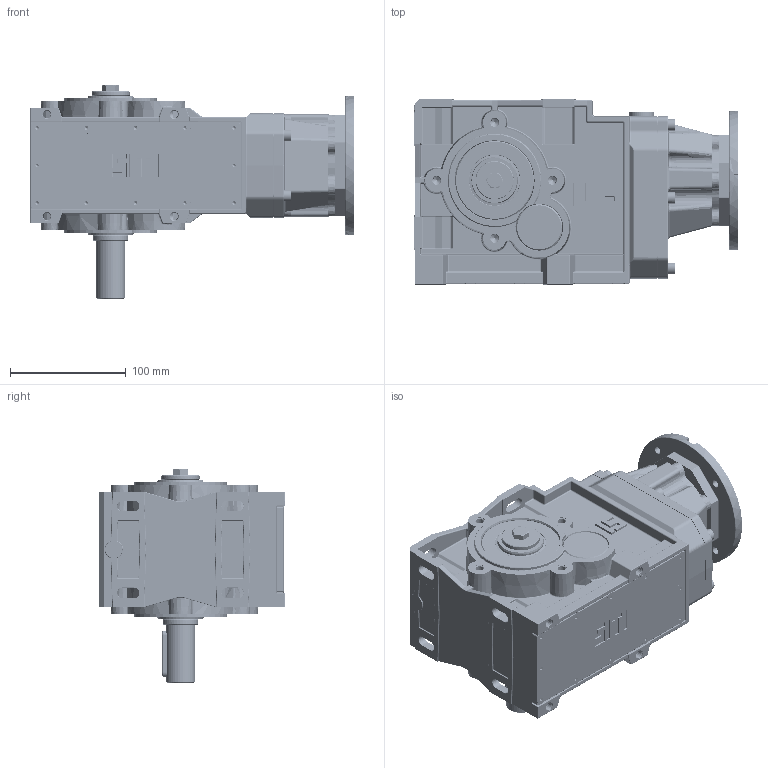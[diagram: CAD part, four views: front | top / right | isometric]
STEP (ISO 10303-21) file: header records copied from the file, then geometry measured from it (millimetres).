
FILE_DESCRIPTION((''),'2;1');
FILE_NAME('C:\Users\m.piscopiello.SITIRIDUTTORI\Desktop\3D x SITO\MBH 56 PAM 56\MBH_56 MS-B PAM56 B5.stp','2013-04-23T14:16:20',('m.piscopiello'),(''),'Autodesk Inventor 2012','Autodesk Inventor 2012','');
FILE_SCHEMA(('CONFIG_CONTROL_DESIGN'));
Length unit declared in the file: millimetre
Products named in the file (1): MBH_56 MS-B PAM56 B5
Bounding box: 280.5 x 160 x 184.3 mm (x, y, z)
Volume: 1423145.3 mm3; surface area: 453485.2 mm2
Topology: 54 solids, 62 shells, 4633 faces, 11070 edges, 6432 vertices
Faces by surface type: cylinder 1494, plane 1218, bspline 840, torus 518, cone 364, sphere 199
Full cylindrical faces by diameter (mm): 3 x4, 3.242 x12, 4.917 x6, 6 x16, 6.5 x10, 6.647 x14, 7 x24, 8 x2, 8.4 x2, 8.5 x1, 8.7 x11, 9 x1, 9.9 x1, 10 x25, 11 x7, 12.5 x1, 15.01 x1, 18.2 x1, 19 x1, 19.37 x1, 19.97 x2, 23.5 x1, 25 x2, 30 x2, 33 x2, 34.4 x1, 35 x3, 36.875 x2, 39.4 x1, 40 x18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
Entity records: 152549 total; most frequent: CARTESIAN_POINT 48688, DIRECTION 20775, ORIENTED_EDGE 19952, EDGE_CURVE 9977, AXIS2_PLACEMENT_3D 8556, VERTEX_POINT 6140, EDGE_LOOP 5441, FACE_OUTER_BOUND 4633
